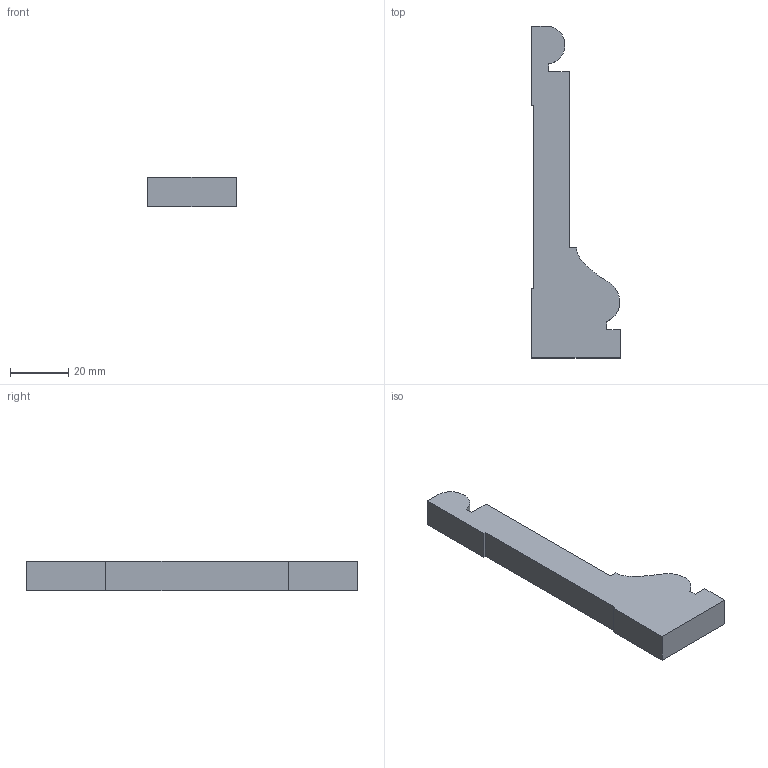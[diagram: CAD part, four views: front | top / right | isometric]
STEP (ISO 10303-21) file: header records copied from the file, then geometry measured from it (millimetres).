
FILE_DESCRIPTION (( 'STEP AP203' ), '1' );
FILE_NAME ('AB136FJ.STEP', '2024-02-17T09:54:12', ( '' ), ( '' ), 'SwSTEP 2.0', 'SolidWorks 2020', '' );
FILE_SCHEMA (( 'CONFIG_CONTROL_DESIGN' ));
Length unit declared in the file: millimetre
Products named in the file (1): AB136FJ
Bounding box: 30.44 x 113.94 x 10 mm (x, y, z)
Volume: 18652.2 mm3; surface area: 6668.7 mm2
Topology: 1 solids, 1 shells, 57 faces, 165 edges, 110 vertices
Faces by surface type: plane 56, cylinder 1
Entity records: 1918 total; most frequent: CARTESIAN_POINT 333, ORIENTED_EDGE 330, DIRECTION 283, EDGE_CURVE 165, LINE 163, VECTOR 163, VERTEX_POINT 110, AXIS2_PLACEMENT_3D 60
